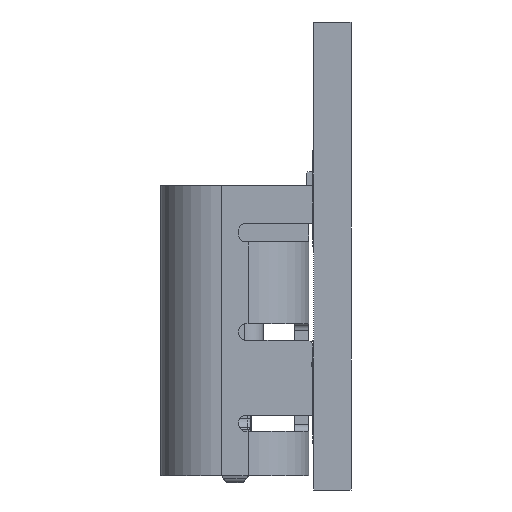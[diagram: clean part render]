
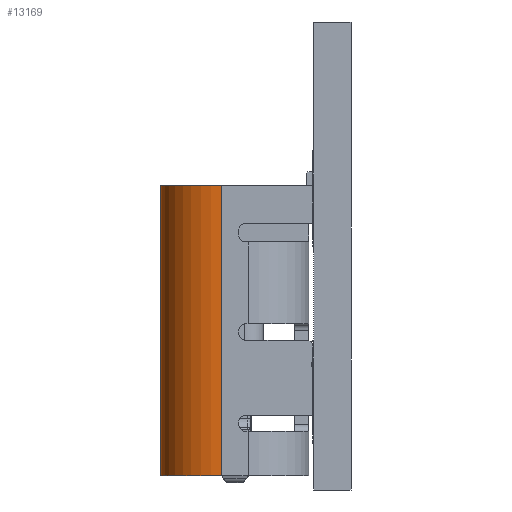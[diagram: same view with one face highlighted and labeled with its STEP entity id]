
A CAD part, left-side view. The second image highlights one B-rep face of the part: STEP entity #13169.
In plain terms, the highlighted cylindrical face has radius 1.3 mm (diameter 2.6 mm), a partial arc.
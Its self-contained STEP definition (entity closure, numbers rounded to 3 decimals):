
#1777 = DIRECTION ( 'NONE',  ( -1., 0., 0. ) ) ;
#1964 = CARTESIAN_POINT ( 'NONE',  ( -0.444, 1.098, 0. ) ) ;
#4523 = VECTOR ( 'NONE', #6997, 1000. ) ;
#4538 = ORIENTED_EDGE ( 'NONE', *, *, #24830, .T. ) ;
#4825 = CARTESIAN_POINT ( 'NONE',  ( -1.744, 7.598, -1.3 ) ) ;
#6531 = DIRECTION ( 'NONE',  ( 0., 1., 0. ) ) ;
#6997 = DIRECTION ( 'NONE',  ( 0., -1., 0. ) ) ;
#7565 = VERTEX_POINT ( 'NONE', #23839 ) ;
#8369 = DIRECTION ( 'NONE',  ( 0., 1., 0. ) ) ;
#8386 = VERTEX_POINT ( 'NONE', #24598 ) ;
#9223 = EDGE_CURVE ( 'NONE', #14404, #7565, #22134, .T. ) ;
#11454 = EDGE_CURVE ( 'NONE', #16161, #8386, #16175, .T. ) ;
#12284 = FACE_OUTER_BOUND ( 'NONE', #19012, .T. ) ;
#12344 = AXIS2_PLACEMENT_3D ( 'NONE', #19657, #6531, #21877 ) ;
#13169 = ADVANCED_FACE ( 'NONE', ( #12284 ), #21900, .T. ) ;
#13982 = ORIENTED_EDGE ( 'NONE', *, *, #9223, .T. ) ;
#14324 = EDGE_CURVE ( 'NONE', #16161, #7565, #21473, .T. ) ;
#14404 = VERTEX_POINT ( 'NONE', #1964 ) ;
#14875 = DIRECTION ( 'NONE',  ( 0., 1., 0. ) ) ;
#15236 = AXIS2_PLACEMENT_3D ( 'NONE', #18759, #16570, #20868 ) ;
#16161 = VERTEX_POINT ( 'NONE', #25738 ) ;
#16175 = LINE ( 'NONE', #4825, #4523 ) ;
#16570 = DIRECTION ( 'NONE',  ( 0., 1., 0. ) ) ;
#18759 = CARTESIAN_POINT ( 'NONE',  ( -0.444, 7.598, -1.3 ) ) ;
#19012 = EDGE_LOOP ( 'NONE', ( #13982, #26948, #21452, #4538 ) ) ;
#19657 = CARTESIAN_POINT ( 'NONE',  ( -0.444, 1.098, -1.3 ) ) ;
#20868 = DIRECTION ( 'NONE',  ( -1., 0., 0. ) ) ;
#21437 = VECTOR ( 'NONE', #8369, 1000. ) ;
#21452 = ORIENTED_EDGE ( 'NONE', *, *, #11454, .T. ) ;
#21473 = CIRCLE ( 'NONE', #24769, 1.3 ) ;
#21877 = DIRECTION ( 'NONE',  ( -1., 0., 0. ) ) ;
#21900 = CYLINDRICAL_SURFACE ( 'NONE', #15236, 1.3 ) ;
#22134 = LINE ( 'NONE', #27994, #21437 ) ;
#23839 = CARTESIAN_POINT ( 'NONE',  ( -0.444, 7.298, 0. ) ) ;
#24127 = CIRCLE ( 'NONE', #12344, 1.3 ) ;
#24598 = CARTESIAN_POINT ( 'NONE',  ( -1.744, 1.098, -1.3 ) ) ;
#24769 = AXIS2_PLACEMENT_3D ( 'NONE', #27965, #14875, #1777 ) ;
#24830 = EDGE_CURVE ( 'NONE', #8386, #14404, #24127, .T. ) ;
#25738 = CARTESIAN_POINT ( 'NONE',  ( -1.744, 7.298, -1.3 ) ) ;
#26948 = ORIENTED_EDGE ( 'NONE', *, *, #14324, .F. ) ;
#27965 = CARTESIAN_POINT ( 'NONE',  ( -0.444, 7.298, -1.3 ) ) ;
#27994 = CARTESIAN_POINT ( 'NONE',  ( -0.444, 1.098, 0. ) ) ;
